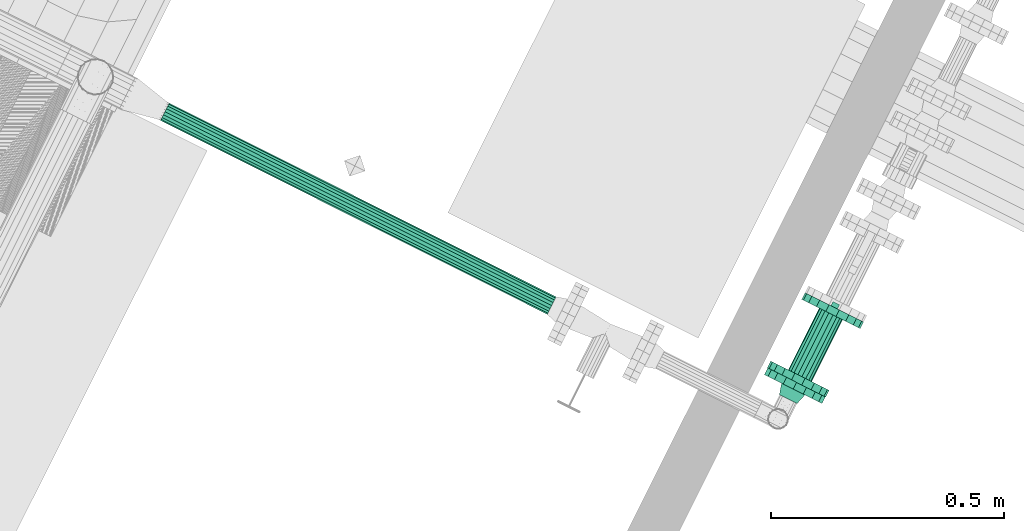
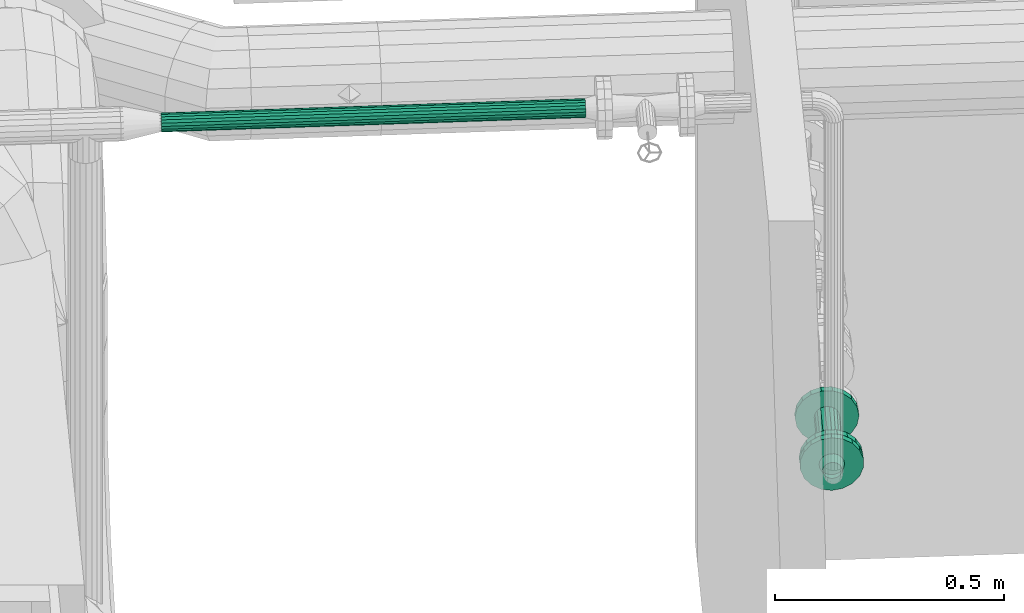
# One storey, part 83 of 206: 1 flow controller, 1 flow fitting, 1 flow segment.
"""IFC2X3 building model written with IfcOpenShell, lengths in metres."""

from ifc_helpers import new_model, si_unit, derived_unit, direction, frame, origin, place, context, subcontext, project, spatial, face_set, surface_model, source, transform, mapped, material, type_object, type_shapes, element, save


model = new_model("IFC2X3")

# Units and contexts
model_context = context("Model", 3, precision=5.2338327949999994e-05, world=origin(), true_north=direction((0.0, 1.0)))
body_context = subcontext(model_context, "Body", "Model", "MODEL_VIEW")
ifc_project = project(units=[si_unit("LENGTHUNIT", "METRE"), si_unit("AREAUNIT", "SQUARE_METRE"), si_unit("VOLUMEUNIT", "CUBIC_METRE"), si_unit("MASSUNIT", "GRAM", prefix="KILO"), si_unit("PLANEANGLEUNIT", "RADIAN"), derived_unit("THERMALTRANSMITTANCEUNIT", [(si_unit("MASSUNIT", "GRAM", prefix="KILO"), 1), (si_unit("THERMODYNAMICTEMPERATUREUNIT", "KELVIN"), -1), (si_unit("TIMEUNIT", "SECOND"), -3)])], contexts=[model_context])

# Site, building, storey
site_placement = place(None, frame((0.0, 0.0, 0.0), z_axis=(0.0, 0.0, 1.0), x_axis=(0.8939966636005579, -0.4480736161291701, 0.0)))
site = spatial("IfcSite", under=ifc_project, at=site_placement, Name="Default", CompositionType="ELEMENT")
building_placement = place(site_placement, origin())
building = spatial("IfcBuilding", under=site, at=building_placement, CompositionType="ELEMENT")
storey_placement = place(building_placement, origin())
storey = spatial("IfcBuildingStorey", under=building, at=storey_placement, Name="Erdgeschoss", CompositionType="ELEMENT", Elevation=0.0)

# Flow fitting
ifc_material = material(Name="IfcSurfaceStyle #352577")
distribution_element_type_1 = type_object("IfcDistributionElementType", Name="Flansch 605700:Flansch 605700", material=ifc_material)
shared_shape_1 = source(origin(), body_context, "Body", "SurfaceModel", [
    surface_model("IfcFaceBasedSurfaceModel", [(29.06061854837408, 8.125162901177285, 1.5840041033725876), (29.061897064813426, 8.125162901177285, 1.591254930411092), (29.05550715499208, 8.14916290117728, 1.593580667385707), (29.053818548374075, 8.14916290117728, 1.584004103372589), (29.065578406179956, 8.125162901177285, 1.597631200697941), (29.06036930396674, 8.14916290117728, 1.6020021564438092), (29.071218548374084, 8.125162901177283, 1.6023638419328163), (29.067818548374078, 8.149162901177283, 1.6082528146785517), (29.07813720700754, 8.125162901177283, 1.604882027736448), (29.076956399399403, 8.149162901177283, 1.6115787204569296), (29.085499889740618, 8.125162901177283, 1.6048820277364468), (29.086680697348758, 8.149162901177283, 1.6115787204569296), (29.092418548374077, 8.125162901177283, 1.6023638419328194), (29.095818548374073, 8.149162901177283, 1.6082528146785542), (29.09805869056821, 8.125162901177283, 1.5976312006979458), (29.103267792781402, 8.149162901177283, 1.602002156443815), (29.101740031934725, 8.125162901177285, 1.5912549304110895), (29.108129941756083, 8.149162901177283, 1.5935806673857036), (29.10301854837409, 8.125162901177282, 1.5840041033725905), (29.109818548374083, 8.149162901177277, 1.58400410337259), (29.101740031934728, 8.125162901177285, 1.5767532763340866), (29.108129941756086, 8.149162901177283, 1.5744275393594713), (29.098058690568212, 8.125162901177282, 1.5703770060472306), (29.103267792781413, 8.14916290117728, 1.566006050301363), (29.092418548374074, 8.125162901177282, 1.5656443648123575), (29.095818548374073, 8.149162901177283, 1.5597553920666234), (29.085499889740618, 8.125162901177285, 1.56312617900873), (29.086680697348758, 8.14916290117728, 1.5564294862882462), (29.078137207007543, 8.125162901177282, 1.5631261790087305), (29.076956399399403, 8.14916290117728, 1.5564294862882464), (29.071218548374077, 8.125162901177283, 1.565644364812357), (29.067818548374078, 8.149162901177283, 1.559755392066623), (29.065578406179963, 8.125162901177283, 1.5703770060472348), (29.060369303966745, 8.14916290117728, 1.5660060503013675), (29.061897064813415, 8.125162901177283, 1.5767532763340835), (29.055507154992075, 8.14916290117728, 1.5744275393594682), (29.08181854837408, 8.149162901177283, 1.5140041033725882), (29.057877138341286, 8.149162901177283, 1.5182256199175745), (29.057877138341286, 8.165162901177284, 1.5182256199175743), (29.08181854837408, 8.165162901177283, 1.514004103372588), (29.036823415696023, 8.149162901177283, 1.5303809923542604), (29.036823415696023, 8.165162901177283, 1.5303809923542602), (29.02119677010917, 8.14916290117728, 1.5490041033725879), (29.02119677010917, 8.165162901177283, 1.5490041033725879), (29.012882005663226, 8.149162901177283, 1.571848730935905), (29.012882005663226, 8.165162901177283, 1.571848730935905), (29.01288200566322, 8.14916290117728, 1.5961594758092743), (29.012882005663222, 8.165162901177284, 1.5961594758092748), (29.02119677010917, 8.149162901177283, 1.6190041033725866), (29.02119677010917, 8.165162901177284, 1.6190041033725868), (29.036823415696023, 8.14916290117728, 1.6376272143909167), (29.036823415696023, 8.165162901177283, 1.6376272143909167), (29.057877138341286, 8.149162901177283, 1.6497825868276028), (29.057877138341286, 8.165162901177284, 1.6497825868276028), (29.08181854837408, 8.149162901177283, 1.654004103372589), (29.081818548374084, 8.165162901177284, 1.6540041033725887), (29.105759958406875, 8.149162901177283, 1.6497825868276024), (29.10575995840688, 8.165162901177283, 1.6497825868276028), (29.12681368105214, 8.149162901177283, 1.637627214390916), (29.12681368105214, 8.165162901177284, 1.6376272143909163), (29.14244032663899, 8.149162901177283, 1.6190041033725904), (29.14244032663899, 8.165162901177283, 1.6190041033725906), (29.150755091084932, 8.149162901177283, 1.5961594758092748), (29.150755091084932, 8.165162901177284, 1.596159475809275), (29.150755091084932, 8.149162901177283, 1.5718487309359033), (29.150755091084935, 8.165162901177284, 1.5718487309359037), (29.14244032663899, 8.14916290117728, 1.549004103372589), (29.14244032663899, 8.165162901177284, 1.549004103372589), (29.12681368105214, 8.149162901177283, 1.5303809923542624), (29.12681368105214, 8.165162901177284, 1.5303809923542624), (29.10575995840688, 8.149162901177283, 1.518225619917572), (29.10575995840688, 8.165162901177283, 1.5182256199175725), (29.08181854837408, 8.149162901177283, 1.5840041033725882)], [face_set([[[0, 1, 2, 3]], [[1, 4, 5, 2]], [[4, 6, 7, 5]], [[6, 8, 9, 7]], [[8, 10, 11, 9]], [[10, 12, 13, 11]], [[12, 14, 15, 13]], [[14, 16, 17, 15]], [[16, 18, 19, 17]], [[18, 20, 21, 19]], [[20, 22, 23, 21]], [[22, 24, 25, 23]], [[24, 26, 27, 25]], [[26, 28, 29, 27]], [[28, 30, 31, 29]], [[30, 32, 33, 31]], [[32, 34, 35, 33]], [[34, 0, 3, 35]], [[36, 37, 38, 39]], [[37, 40, 41, 38]], [[40, 42, 43, 41]], [[42, 44, 45, 43]], [[44, 46, 47, 45]], [[46, 48, 49, 47]], [[48, 50, 51, 49]], [[50, 52, 53, 51]], [[52, 54, 55, 53]], [[54, 56, 57, 55]], [[56, 58, 59, 57]], [[58, 60, 61, 59]], [[60, 62, 63, 61]], [[62, 64, 65, 63]], [[64, 66, 67, 65]], [[66, 68, 69, 67]], [[68, 70, 71, 69]], [[70, 36, 39, 71]], [[72, 37, 36]], [[72, 40, 37]], [[72, 42, 40]], [[72, 44, 42]], [[72, 46, 44]], [[72, 48, 46]], [[72, 50, 48]], [[72, 52, 50]], [[72, 54, 52]], [[72, 56, 54]], [[72, 58, 56]], [[72, 60, 58]], [[72, 62, 60]], [[72, 64, 62]], [[72, 66, 64]], [[72, 68, 66]], [[72, 70, 68]], [[72, 36, 70]]])]),
])
type_shapes(distribution_element_type_1, [shared_shape_1])
flow_fitting_placement = place(storey_placement, origin())
element("IfcFlowFitting", 1, at=flow_fitting_placement, inside=storey, type_object=distribution_element_type_1, material=ifc_material, Name="Flansch", ObjectType="Flansch", context=body_context, shape_type="MappedRepresentation", body=[
    mapped(shared_shape_1, transform((0.0, 0.0, 0.0), scale=1.0)),
])

# Flow controller
distribution_element_type_2 = type_object("IfcDistributionElementType", Name="Absperrklappe 606151:Absperrklappe 606151", material=ifc_material)
shared_shape_2 = source(origin(), body_context, "Body", "SurfaceModel", [
    surface_model("IfcFaceBasedSurfaceModel", [(29.073818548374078, 8.255162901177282, 1.5840041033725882), (29.076161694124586, 8.260819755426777, 1.5840041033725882), (29.076161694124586, 8.260819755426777, 1.5320041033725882), (29.073818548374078, 8.255162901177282, 1.5320041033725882), (29.08181854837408, 8.26316290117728, 1.5840041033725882), (29.08181854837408, 8.26316290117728, 1.5320041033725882), (29.087475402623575, 8.260819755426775, 1.5840041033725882), (29.087475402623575, 8.260819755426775, 1.5320041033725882), (29.089818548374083, 8.255162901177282, 1.5840041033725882), (29.089818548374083, 8.255162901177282, 1.5320041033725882), (29.087475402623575, 8.249506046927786, 1.5840041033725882), (29.087475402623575, 8.249506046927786, 1.5320041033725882), (29.08181854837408, 8.247162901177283, 1.5840041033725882), (29.08181854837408, 8.247162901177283, 1.5320041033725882), (29.076161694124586, 8.249506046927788, 1.5840041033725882), (29.076161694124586, 8.249506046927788, 1.5320041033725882), (29.073818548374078, 8.263162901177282, 1.5320041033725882), (29.073818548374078, 8.247162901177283, 1.5320041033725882), (29.089818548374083, 8.247162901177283, 1.5320041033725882), (29.089818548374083, 8.263162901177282, 1.5320041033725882), (29.073818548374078, 8.247162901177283, 1.5160041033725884), (29.089818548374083, 8.247162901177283, 1.5160041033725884), (29.073818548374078, 8.263162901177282, 1.5160041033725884), (29.089818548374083, 8.263162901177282, 1.5160041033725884), (29.073818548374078, 8.288496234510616, 1.4840041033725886), (29.089818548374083, 8.288496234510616, 1.4840041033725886), (29.073818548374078, 8.355162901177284, 1.4840041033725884), (29.089818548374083, 8.355162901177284, 1.4840041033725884), (29.073818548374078, 8.355162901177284, 1.5000041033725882), (29.089818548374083, 8.355162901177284, 1.5000041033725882), (29.073818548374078, 8.288496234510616, 1.5000041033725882), (29.089818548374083, 8.288496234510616, 1.5000041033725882), (29.011818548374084, 8.165162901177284, 1.5840041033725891), (29.016040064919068, 8.165162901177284, 1.6079455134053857), (29.016040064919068, 8.181162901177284, 1.6079455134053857), (29.011818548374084, 8.181162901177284, 1.5840041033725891), (29.028195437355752, 8.165162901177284, 1.6289992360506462), (29.028195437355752, 8.181162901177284, 1.6289992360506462), (29.046818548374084, 8.165162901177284, 1.644625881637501), (29.046818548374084, 8.181162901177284, 1.644625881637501), (29.069663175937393, 8.165162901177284, 1.6529406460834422), (29.069663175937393, 8.181162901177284, 1.6529406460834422), (29.093973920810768, 8.165162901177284, 1.652940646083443), (29.093973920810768, 8.181162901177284, 1.652940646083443), (29.11681854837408, 8.165162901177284, 1.6446258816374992), (29.11681854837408, 8.181162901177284, 1.6446258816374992), (29.135441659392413, 8.165162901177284, 1.6289992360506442), (29.135441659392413, 8.181162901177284, 1.6289992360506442), (29.147597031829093, 8.165162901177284, 1.6079455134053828), (29.147597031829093, 8.181162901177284, 1.6079455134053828), (29.151818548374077, 8.165162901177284, 1.5840041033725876), (29.151818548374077, 8.181162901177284, 1.5840041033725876), (29.147597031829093, 8.165162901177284, 1.5600626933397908), (29.147597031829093, 8.181162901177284, 1.5600626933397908), (29.135441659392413, 8.165162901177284, 1.5390089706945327), (29.135441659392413, 8.181162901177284, 1.5390089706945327), (29.11681854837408, 8.165162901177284, 1.5233823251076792), (29.11681854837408, 8.181162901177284, 1.5233823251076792), (29.093973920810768, 8.165162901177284, 1.5150675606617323), (29.093973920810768, 8.181162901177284, 1.5150675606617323), (29.069663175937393, 8.165162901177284, 1.5150675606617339), (29.069663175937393, 8.181162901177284, 1.5150675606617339), (29.046818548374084, 8.165162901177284, 1.5233823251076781), (29.046818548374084, 8.181162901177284, 1.5233823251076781), (29.028195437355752, 8.165162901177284, 1.5390089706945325), (29.028195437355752, 8.181162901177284, 1.5390089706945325), (29.016040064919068, 8.165162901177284, 1.5600626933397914), (29.016040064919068, 8.181162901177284, 1.5600626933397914), (29.08181854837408, 8.165162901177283, 1.5840041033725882), (29.08181854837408, 8.181162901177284, 1.5840041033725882), (29.05381854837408, 8.181162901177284, 1.5840041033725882), (29.055507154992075, 8.181162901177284, 1.5935806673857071), (29.055507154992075, 8.329162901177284, 1.5935806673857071), (29.05381854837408, 8.329162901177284, 1.5840041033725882), (29.06036930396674, 8.181162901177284, 1.6020021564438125), (29.06036930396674, 8.329162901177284, 1.6020021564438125), (29.067818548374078, 8.181162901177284, 1.608252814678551), (29.067818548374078, 8.329162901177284, 1.608252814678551), (29.076956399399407, 8.181162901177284, 1.6115787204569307), (29.076956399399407, 8.329162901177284, 1.6115787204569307), (29.086680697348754, 8.181162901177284, 1.6115787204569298), (29.086680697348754, 8.329162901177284, 1.6115787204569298), (29.09581854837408, 8.181162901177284, 1.6082528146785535), (29.09581854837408, 8.329162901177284, 1.6082528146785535), (29.103267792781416, 8.181162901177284, 1.6020021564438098), (29.103267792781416, 8.329162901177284, 1.6020021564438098), (29.108129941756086, 8.181162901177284, 1.5935806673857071), (29.108129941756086, 8.329162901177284, 1.5935806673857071), (29.109818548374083, 8.181162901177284, 1.5840041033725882), (29.109818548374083, 8.329162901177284, 1.5840041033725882), (29.108129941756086, 8.181162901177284, 1.5744275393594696), (29.108129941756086, 8.329162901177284, 1.5744275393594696), (29.10326779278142, 8.181162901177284, 1.5660060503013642), (29.10326779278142, 8.329162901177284, 1.5660060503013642), (29.09581854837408, 8.181162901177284, 1.5597553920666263), (29.09581854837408, 8.329162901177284, 1.5597553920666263), (29.086680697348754, 8.181162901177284, 1.5564294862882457), (29.086680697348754, 8.329162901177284, 1.5564294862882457), (29.076956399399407, 8.181162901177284, 1.5564294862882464), (29.076956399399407, 8.329162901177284, 1.5564294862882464), (29.067818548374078, 8.181162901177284, 1.5597553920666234), (29.067818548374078, 8.329162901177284, 1.5597553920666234), (29.060369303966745, 8.181162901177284, 1.566006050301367), (29.060369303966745, 8.329162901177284, 1.566006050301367), (29.055507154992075, 8.181162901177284, 1.5744275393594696), (29.055507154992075, 8.329162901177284, 1.5744275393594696), (29.011818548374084, 8.329162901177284, 1.5840041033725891), (29.016040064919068, 8.329162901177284, 1.6079455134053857), (29.016040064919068, 8.345162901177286, 1.6079455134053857), (29.011818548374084, 8.345162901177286, 1.5840041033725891), (29.028195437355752, 8.329162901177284, 1.6289992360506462), (29.028195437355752, 8.345162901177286, 1.6289992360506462), (29.046818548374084, 8.329162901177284, 1.644625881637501), (29.046818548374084, 8.345162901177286, 1.644625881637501), (29.069663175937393, 8.329162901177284, 1.6529406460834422), (29.069663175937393, 8.345162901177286, 1.6529406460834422), (29.093973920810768, 8.329162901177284, 1.652940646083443), (29.093973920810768, 8.345162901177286, 1.652940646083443), (29.11681854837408, 8.329162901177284, 1.6446258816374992), (29.11681854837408, 8.345162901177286, 1.6446258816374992), (29.135441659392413, 8.329162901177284, 1.6289992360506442), (29.135441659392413, 8.345162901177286, 1.6289992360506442), (29.147597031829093, 8.329162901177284, 1.6079455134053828), (29.147597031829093, 8.345162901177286, 1.6079455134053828), (29.151818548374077, 8.329162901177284, 1.5840041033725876), (29.151818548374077, 8.345162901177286, 1.5840041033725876), (29.147597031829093, 8.329162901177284, 1.5600626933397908), (29.147597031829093, 8.345162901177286, 1.5600626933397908), (29.135441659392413, 8.329162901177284, 1.5390089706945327), (29.135441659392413, 8.345162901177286, 1.5390089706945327), (29.11681854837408, 8.329162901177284, 1.5233823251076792), (29.11681854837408, 8.345162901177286, 1.5233823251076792), (29.093973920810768, 8.329162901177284, 1.5150675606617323), (29.093973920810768, 8.345162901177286, 1.5150675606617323), (29.069663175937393, 8.329162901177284, 1.5150675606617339), (29.069663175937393, 8.345162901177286, 1.5150675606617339), (29.046818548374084, 8.329162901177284, 1.5233823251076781), (29.046818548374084, 8.345162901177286, 1.5233823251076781), (29.028195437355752, 8.329162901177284, 1.5390089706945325), (29.028195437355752, 8.345162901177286, 1.5390089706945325), (29.016040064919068, 8.329162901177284, 1.5600626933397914), (29.016040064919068, 8.345162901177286, 1.5600626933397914), (29.08181854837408, 8.329162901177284, 1.5840041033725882), (29.08181854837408, 8.345162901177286, 1.5840041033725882)], [face_set([[[0, 1, 2, 3]], [[1, 4, 5, 2]], [[4, 6, 7, 5]], [[6, 8, 9, 7]], [[8, 10, 11, 9]], [[10, 12, 13, 11]], [[12, 14, 15, 13]], [[14, 0, 3, 15]], [[16, 17, 18, 19]], [[17, 20, 21, 18]], [[20, 22, 23, 21]], [[22, 24, 25, 23]], [[24, 26, 27, 25]], [[26, 28, 29, 27]], [[28, 30, 31, 29]], [[30, 16, 19, 31]], [[18, 23, 19]], [[25, 19, 23]], [[19, 25, 31]], [[27, 31, 25]], [[31, 27, 29]], [[23, 18, 21]], [[16, 22, 17]], [[22, 16, 24]], [[30, 24, 16]], [[24, 30, 26]], [[28, 26, 30]], [[20, 17, 22]], [[32, 33, 34, 35]], [[33, 36, 37, 34]], [[36, 38, 39, 37]], [[38, 40, 41, 39]], [[40, 42, 43, 41]], [[42, 44, 45, 43]], [[44, 46, 47, 45]], [[46, 48, 49, 47]], [[48, 50, 51, 49]], [[50, 52, 53, 51]], [[52, 54, 55, 53]], [[54, 56, 57, 55]], [[56, 58, 59, 57]], [[58, 60, 61, 59]], [[60, 62, 63, 61]], [[62, 64, 65, 63]], [[64, 66, 67, 65]], [[66, 32, 35, 67]], [[68, 33, 32]], [[68, 36, 33]], [[68, 38, 36]], [[68, 40, 38]], [[68, 42, 40]], [[68, 44, 42]], [[68, 46, 44]], [[68, 48, 46]], [[68, 50, 48]], [[68, 52, 50]], [[68, 54, 52]], [[68, 56, 54]], [[68, 58, 56]], [[68, 60, 58]], [[68, 62, 60]], [[68, 64, 62]], [[68, 66, 64]], [[68, 32, 66]], [[69, 67, 35]], [[69, 65, 67]], [[69, 63, 65]], [[69, 61, 63]], [[69, 59, 61]], [[69, 57, 59]], [[69, 55, 57]], [[69, 53, 55]], [[69, 51, 53]], [[69, 49, 51]], [[69, 47, 49]], [[69, 45, 47]], [[69, 43, 45]], [[69, 41, 43]], [[69, 39, 41]], [[69, 37, 39]], [[69, 34, 37]], [[69, 35, 34]], [[70, 71, 72, 73]], [[71, 74, 75, 72]], [[74, 76, 77, 75]], [[76, 78, 79, 77]], [[78, 80, 81, 79]], [[80, 82, 83, 81]], [[82, 84, 85, 83]], [[84, 86, 87, 85]], [[86, 88, 89, 87]], [[88, 90, 91, 89]], [[90, 92, 93, 91]], [[92, 94, 95, 93]], [[94, 96, 97, 95]], [[96, 98, 99, 97]], [[98, 100, 101, 99]], [[100, 102, 103, 101]], [[102, 104, 105, 103]], [[104, 70, 73, 105]], [[106, 107, 108, 109]], [[107, 110, 111, 108]], [[110, 112, 113, 111]], [[112, 114, 115, 113]], [[114, 116, 117, 115]], [[116, 118, 119, 117]], [[118, 120, 121, 119]], [[120, 122, 123, 121]], [[122, 124, 125, 123]], [[124, 126, 127, 125]], [[126, 128, 129, 127]], [[128, 130, 131, 129]], [[130, 132, 133, 131]], [[132, 134, 135, 133]], [[134, 136, 137, 135]], [[136, 138, 139, 137]], [[138, 140, 141, 139]], [[140, 106, 109, 141]], [[142, 107, 106]], [[142, 110, 107]], [[142, 112, 110]], [[142, 114, 112]], [[142, 116, 114]], [[142, 118, 116]], [[142, 120, 118]], [[142, 122, 120]], [[142, 124, 122]], [[142, 126, 124]], [[142, 128, 126]], [[142, 130, 128]], [[142, 132, 130]], [[142, 134, 132]], [[142, 136, 134]], [[142, 138, 136]], [[142, 140, 138]], [[142, 106, 140]], [[143, 141, 109]], [[143, 139, 141]], [[143, 137, 139]], [[143, 135, 137]], [[143, 133, 135]], [[143, 131, 133]], [[143, 129, 131]], [[143, 127, 129]], [[143, 125, 127]], [[143, 123, 125]], [[143, 121, 123]], [[143, 119, 121]], [[143, 117, 119]], [[143, 115, 117]], [[143, 113, 115]], [[143, 111, 113]], [[143, 108, 111]], [[143, 109, 108]]])]),
])
type_shapes(distribution_element_type_2, [shared_shape_2])
flow_controller_placement = place(storey_placement, origin())
element("IfcFlowController", 2, at=flow_controller_placement, inside=storey, type_object=distribution_element_type_2, material=ifc_material, Name="Absperrklappe", ObjectType="Absperrklappe", context=body_context, shape_type="MappedRepresentation", body=[
    mapped(shared_shape_2, transform((0.0, 0.0, 0.0), scale=1.0)),
])

# Flow segment
distribution_element_type_3 = type_object("IfcDistributionElementType", Name="Stahlrohr nach DIN 2448 617611:Stahlrohr nach DIN 2448 617611", material=ifc_material)
shared_shape_3 = source(origin(), body_context, "Body", "SurfaceModel", [
    surface_model("IfcFaceBasedSurfaceModel", [(28.53866518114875, 8.077162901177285, 2.5839641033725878), (28.53866518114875, 8.06991207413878, 2.5852426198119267), (27.61164208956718, 8.06991207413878, 2.5852426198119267), (27.61164208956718, 8.077162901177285, 2.5839641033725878), (28.53866518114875, 8.063535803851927, 2.5889239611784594), (27.61164208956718, 8.063535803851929, 2.5889239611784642), (28.53866518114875, 8.058803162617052, 2.5945641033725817), (27.61164208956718, 8.058803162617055, 2.594564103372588), (28.53866518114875, 8.05628497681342, 2.601482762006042), (27.61164208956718, 8.056284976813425, 2.6014827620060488), (28.53866518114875, 8.056284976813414, 2.6088454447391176), (27.61164208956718, 8.056284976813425, 2.6088454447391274), (28.53866518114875, 8.058803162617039, 2.615764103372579), (27.61164208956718, 8.058803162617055, 2.6157641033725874), (28.53866518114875, 8.063535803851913, 2.6214042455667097), (27.61164208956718, 8.06353580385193, 2.6214042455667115), (28.53866518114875, 8.069912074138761, 2.625085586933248), (27.61164208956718, 8.069912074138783, 2.6250855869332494), (28.53866518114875, 8.077162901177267, 2.6263641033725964), (27.61164208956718, 8.077162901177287, 2.626364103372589), (28.53866518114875, 8.084413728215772, 2.625085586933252), (27.61164208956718, 8.08441372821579, 2.6250855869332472), (28.53866518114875, 8.090789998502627, 2.6214042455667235), (27.61164208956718, 8.090789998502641, 2.62140424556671), (28.53866518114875, 8.095522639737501, 2.615764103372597), (27.61164208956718, 8.095522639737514, 2.615764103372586), (28.53866518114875, 8.098040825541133, 2.6088454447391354), (27.61164208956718, 8.098040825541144, 2.608845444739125), (28.53866518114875, 8.098040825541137, 2.601482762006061), (27.61164208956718, 8.098040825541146, 2.601482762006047), (28.53866518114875, 8.09552263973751, 2.594564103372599), (27.61164208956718, 8.095522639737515, 2.5945641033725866), (28.53866518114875, 8.090789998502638, 2.588923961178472), (27.61164208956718, 8.09078999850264, 2.588923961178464), (28.53866518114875, 8.08441372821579, 2.585242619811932), (27.61164208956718, 8.08441372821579, 2.5852426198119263)], [face_set([[[0, 1, 2, 3]], [[1, 4, 5, 2]], [[4, 6, 7, 5]], [[6, 8, 9, 7]], [[8, 10, 11, 9]], [[10, 12, 13, 11]], [[12, 14, 15, 13]], [[14, 16, 17, 15]], [[16, 18, 19, 17]], [[18, 20, 21, 19]], [[20, 22, 23, 21]], [[22, 24, 25, 23]], [[24, 26, 27, 25]], [[26, 28, 29, 27]], [[28, 30, 31, 29]], [[30, 32, 33, 31]], [[32, 34, 35, 33]], [[34, 0, 3, 35]]])]),
])
type_shapes(distribution_element_type_3, [shared_shape_3])
flow_segment_placement = place(storey_placement, origin())
element("IfcFlowSegment", 3, at=flow_segment_placement, inside=storey, type_object=distribution_element_type_3, material=ifc_material, Name="Stahlrohr nach DIN 2448", ObjectType="Stahlrohr nach DIN 2448", context=body_context, shape_type="MappedRepresentation", body=[
    mapped(shared_shape_3, transform((0.0, 0.0, 0.0), scale=1.0)),
])

save(model, "model.ifc")
